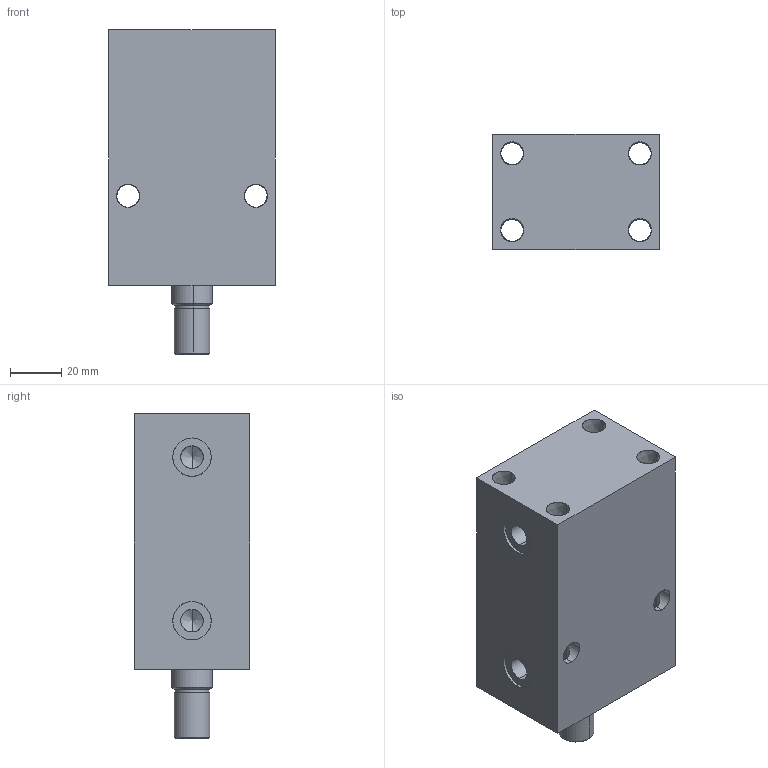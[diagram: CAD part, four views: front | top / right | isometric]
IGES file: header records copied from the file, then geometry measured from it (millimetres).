
Start section: SolidWorks IGES file using analytic representation for surfaces
Global section: file name: D:\karuppas\Clasp\3D model\Block cylinder B01C-Male thread - Copy\B01C-150M\block cylinder B01C-150M.IGS; native system: SolidWorks 2017; preprocessor: SolidWorks 2017; author: pc; date: 220709.232710; units: millimetre
Bounding box: 65 x 45 x 127 mm (x, y, z)
Surface area: 46973.9 mm2 (no closed solid volume)
Topology: 0 solids, 0 shells, 350 faces, 5364 edges, 5360 vertices
Faces by surface type: bspline 296, revolution 54
